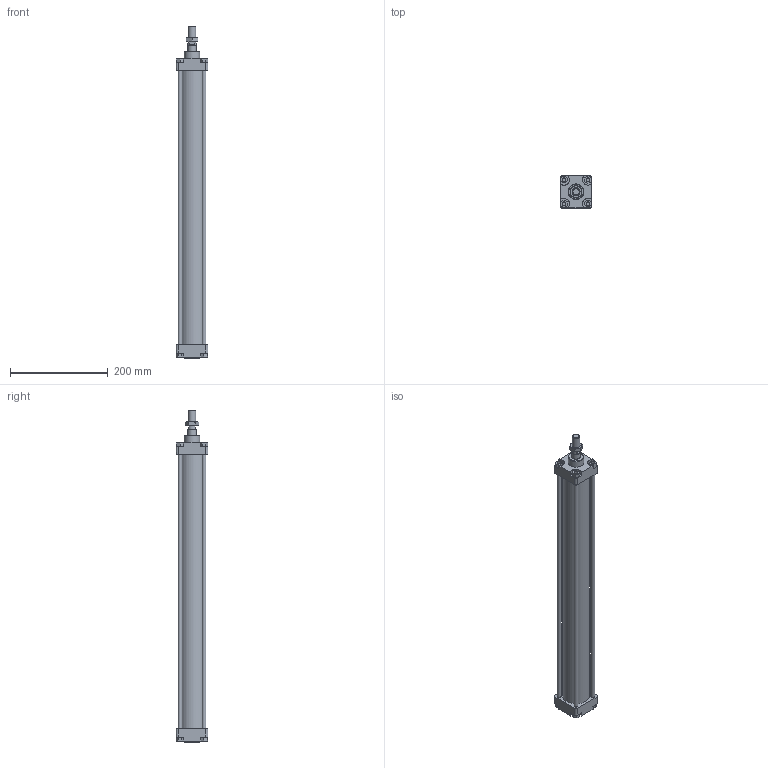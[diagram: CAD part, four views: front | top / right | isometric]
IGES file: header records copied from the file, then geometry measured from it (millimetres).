
Global section: file name: 130#_050_0500_01A; native system: Autodesk Inventor 2014; preprocessor: unknown; author: A. Manieri; date: 20161123.145530; units: millimetre
Bounding box: 65 x 65 x 679 mm (x, y, z)
Volume: 747934.5 mm3; surface area: 331779.2 mm2
Topology: 9 solids, 9 shells, 163 faces, 401 edges, 268 vertices
Faces by surface type: bspline 163
